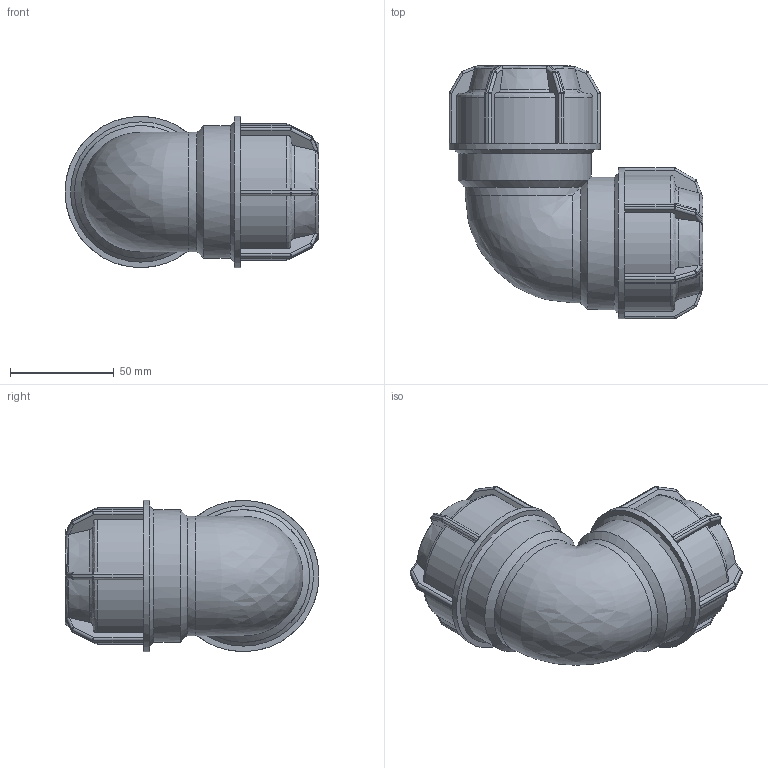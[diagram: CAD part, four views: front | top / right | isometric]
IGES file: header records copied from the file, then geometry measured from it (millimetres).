
Global section: file name: 140500040.ipt; native system: Autodesk Inventor 2015; preprocessor: unknown; author: KIM; date: 20180409.131042; units: millimetre
Bounding box: 122.5 x 122.5 x 73 mm (x, y, z)
Volume: 289082.7 mm3; surface area: 61423 mm2
Topology: 1 solids, 1 shells, 406 faces, 970 edges, 564 vertices
Faces by surface type: plane 192, cylinder 114, sphere 48, revolution 35, cone 16, bspline 1
Full cylindrical faces by diameter (mm): 64 x2, 73 x2
